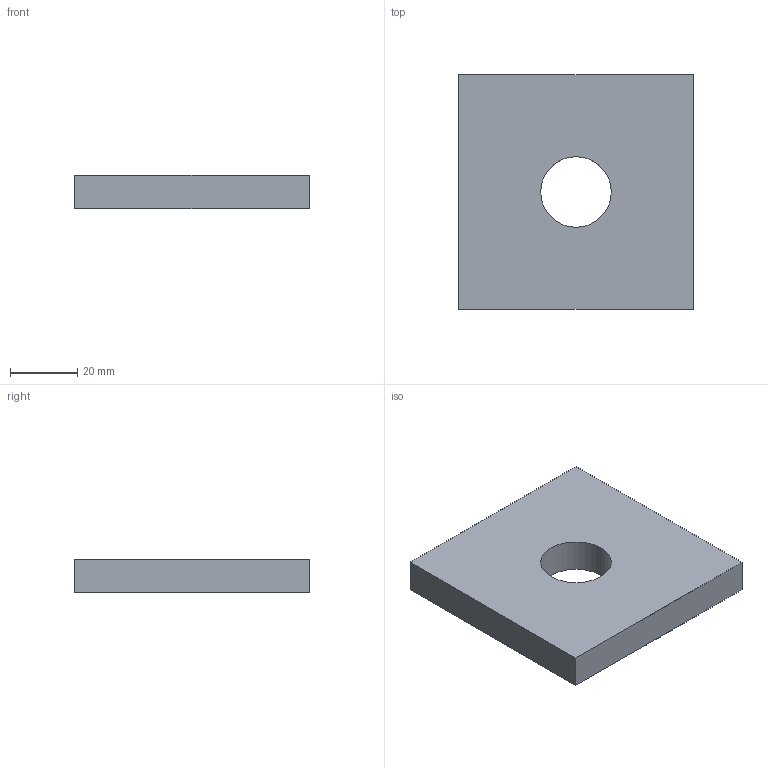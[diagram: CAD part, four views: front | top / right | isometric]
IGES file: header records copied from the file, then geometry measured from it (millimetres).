
Start section: 3D InterOp IGES (Version 26 1 0), Spatial Corp. Copyright (c) 1999-2007.
Global section: file name: CP7010T21.igs; native system: Spatial Corp.; preprocessor: 3D InterOp GENERIC/IGES 3.0; author: Noname; organization: Noname; date: 20181022.154100; units: millimetre
Bounding box: 70 x 70 x 10 mm (x, y, z)
Surface area: 12567 mm2 (no closed solid volume)
Topology: 0 solids, 0 shells, 8 faces, 36 edges, 36 vertices
Faces by surface type: extrusion 6, revolution 2
